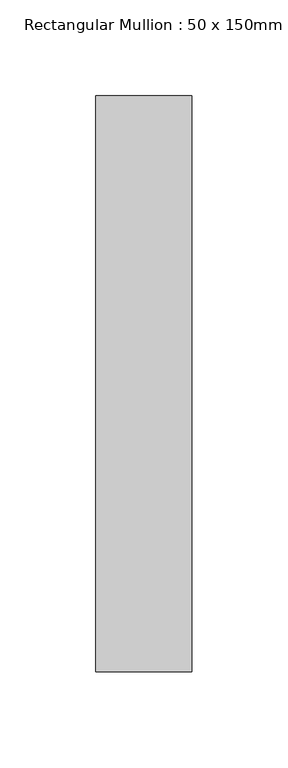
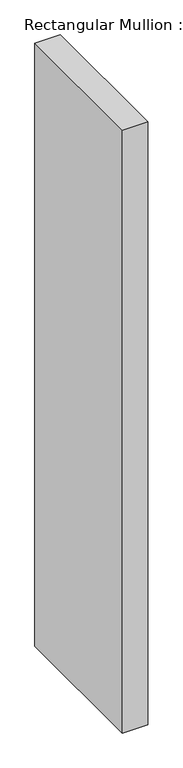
"""IFC4 building model written with IfcOpenShell, lengths in millimetres: member geometry, Rectangular Mullion : 50 x 150mm."""

from ifc_helpers import new_model, si_unit, frame, origin, place, context, project, spatial, polyline, outline, extrude, source, transform, mapped, element, save


def rectangular_mullion_50_x_150mm_053de50f(model_context):
    return source(origin(), model_context, "Body", "SweptSolid", [
        extrude(outline(polyline([(0.0, 125.0), (0.0, -175.0), (-50.0, -175.0), (-50.0, 125.0), (0.0, 125.0)])), frame((0.0, 0.0, -1260.8268304), z_axis=(0.0, 0.0, 1.0), x_axis=(1.0, 0.0, 0.0)), (0.0, 0.0, 1.0), 1260.8268304),
    ])


if __name__ == "__main__":
    model = new_model("IFC4")
    model_context = context("Model", 3, world=origin())
    ifc_project = project(units=[si_unit("LENGTHUNIT", "METRE", prefix="MILLI")], contexts=[model_context])
    site = spatial("IfcSite", under=ifc_project)
    building = spatial("IfcBuilding", under=site)
    placement = place(None, origin())
    rectangular_mullion_50_x_150mm_shape = rectangular_mullion_50_x_150mm_053de50f(model_context)
    element("IfcMember", 1, ObjectType="Rectangular Mullion : 50 x 150mm", at=placement, inside=building, context=model_context, shape_type="MappedRepresentation", body=[
        mapped(rectangular_mullion_50_x_150mm_shape, transform((0.0, 0.0, 0.0), x_axis=(1.0, 0.0, 0.0), y_axis=(0.0, 1.0, 0.0), z_axis=(0.0, 0.0, 1.0))),
    ])
    save(model, "model.ifc")
